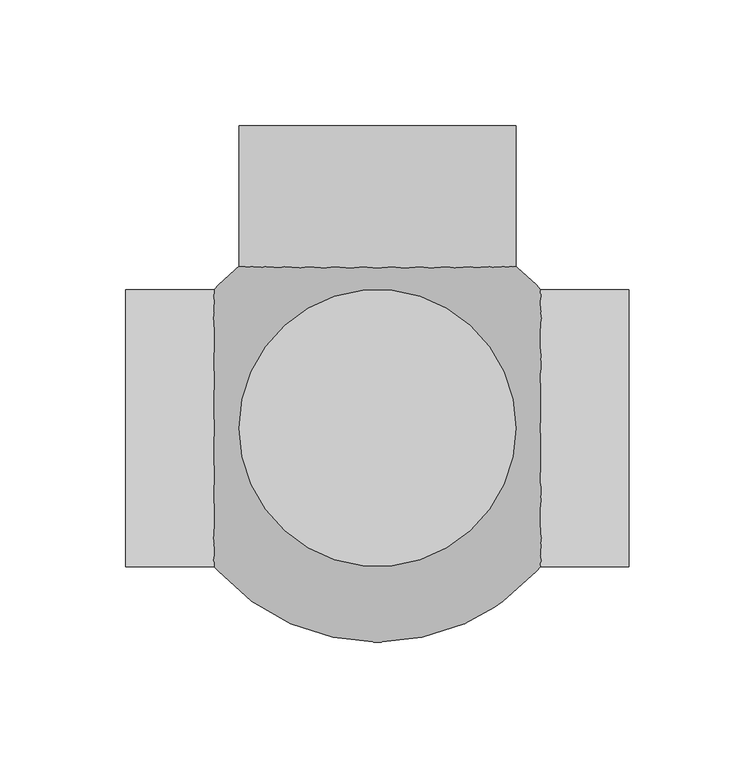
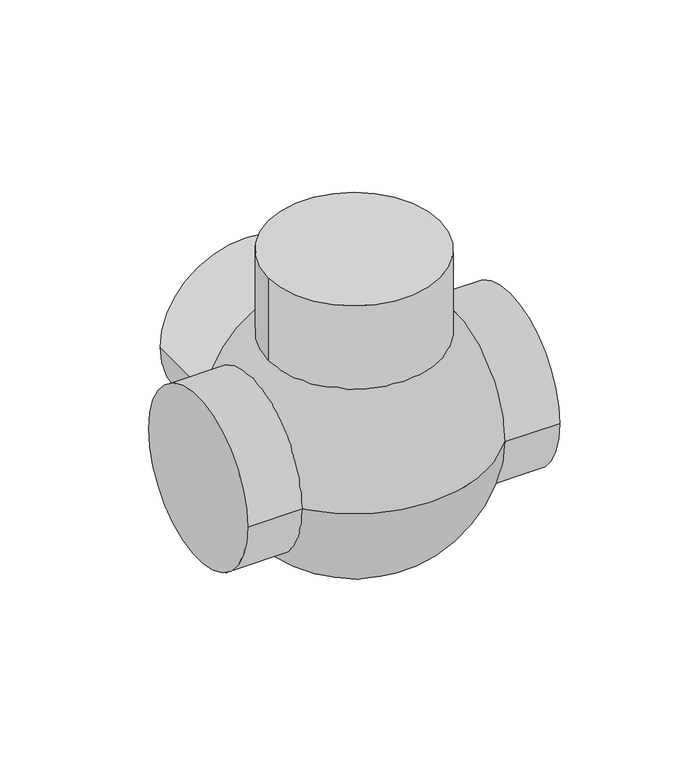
"""IFC4 building model written with IfcOpenShell, lengths in millimetres: pipe fitting geometry, NLRS_52_PIF_UN_PE kogel T-stuk 88,5° dubbel, aansluitingen 90° sprong_geb : DN60-150 / ø63-160."""

from ifc_helpers import new_model, si_unit, point, frame, origin, origin_with_axes, origin_2d, place, context, project, spatial, circle_curve, ellipse_curve, trimmed, segment, composite_curve, outline, extrude, source, transform, mapped, element, save
from ifc_brep_helpers import plane_surface, cylinder_surface, revolved_surface, advanced_brep


def pipe_fitting_7474d90c(model_context):
    return source(origin(), model_context, "Body", "SolidModel", [
        extrude(outline(composite_curve([segment(trimmed(circle_curve(origin_2d(), 55.0), [point((-55.0, 0.0))], [point((55.0, 0.0))], False, "CARTESIAN"), True, "CONTINUOUS"), segment(trimmed(circle_curve(origin_2d(), 55.0), [point((55.0, 0.0))], [point((-55.0, 0.0))], False, "CARTESIAN"), True, "CONTINUOUS")], self_intersect=False)), origin_with_axes(), (0.0, 0.0, 1.0), 120.0),
        extrude(outline(composite_curve([segment(trimmed(circle_curve(origin_2d(), 55.0), [point((0.0, 55.0))], [point((0.0, -55.0))], False, "CARTESIAN"), True, "CONTINUOUS"), segment(trimmed(circle_curve(origin_2d(), 55.0), [point((0.0, -55.0))], [point((0.0, 55.0))], False, "CARTESIAN"), True, "CONTINUOUS")], self_intersect=False)), frame((0.0, 0.0, 0.0), z_axis=(0.0, 1.0, 0.0), x_axis=(0.0, 0.0, 1.0)), (0.0, 0.0, 1.0), 120.0),
        advanced_brep(
        [(0.0, -85.0, 0.0), (-64.807407, -55.0, 0.0), (-64.807407, 55.0, 0.0), (0.0, 85.0, 0.0), (64.807407, 55.0, 0.0), (64.807407, -55.0, 0.0), (100.0, -55.0, 0.0), (100.0, 55.0, 0.0), (-100.0, -55.0, 0.0), (-100.0, 55.0, 0.0)],
        [
            (0, 1, circle_curve(frame((0.0, 0.0, 0.0), z_axis=(0.0, 0.0, -1.0), x_axis=(1.0, 0.0, 0.0)), 85.0)),
            (1, 2, circle_curve(frame((-64.807407, 0.0, 0.0), z_axis=(1.0, 0.0, 0.0), x_axis=(0.0, 1.0, 0.0)), 55.0)),
            (2, 3, circle_curve(frame((0.0, 0.0, 0.0), z_axis=(0.0, 0.0, -1.0), x_axis=(1.0, 0.0, 0.0)), 85.0)),
            (3, 4, circle_curve(frame((0.0, 0.0, 0.0), z_axis=(0.0, 0.0, -1.0), x_axis=(-1.0, 0.0, 0.0)), 85.0)),
            (4, 5, circle_curve(frame((64.807407, 0.0, 0.0), z_axis=(-1.0, 0.0, 0.0), x_axis=(0.0, 1.0, 0.0)), 55.0)),
            (5, 0, circle_curve(frame((0.0, 0.0, 0.0), z_axis=(0.0, 0.0, -1.0), x_axis=(-1.0, 0.0, 0.0)), 85.0)),
            (5, 4, circle_curve(frame((64.807407, 0.0, 0.0), z_axis=(-1.0, 0.0, 0.0), x_axis=(0.0, 1.0, 0.0)), 55.0)),
            (2, 1, circle_curve(frame((-64.807407, 0.0, 0.0), z_axis=(1.0, 0.0, 0.0), x_axis=(0.0, 1.0, 0.0)), 55.0)),
            (6, 7, circle_curve(frame((100.0, 0.0, 0.0), z_axis=(1.0, 0.0, 0.0), x_axis=(0.0, 1.0, 0.0)), 55.0)),
            (7, 6, circle_curve(frame((100.0, 0.0, 0.0), z_axis=(1.0, 0.0, 0.0), x_axis=(0.0, 1.0, 0.0)), 55.0)),
            (8, 9, circle_curve(frame((-100.0, 0.0, 0.0), z_axis=(-1.0, 0.0, 0.0), x_axis=(0.0, 1.0, 0.0)), 55.0)),
            (9, 8, circle_curve(frame((-100.0, 0.0, 0.0), z_axis=(-1.0, 0.0, 0.0), x_axis=(0.0, 1.0, 0.0)), 55.0)),
            (6, 5),
            (4, 7),
            (9, 2),
            (1, 8),
        ],
        [
            revolved_surface(trimmed(ellipse_curve(origin_with_axes(), 85.0, 85.0), [point((0.0, 85.0, 0.0))], [point((0.0, -85.0, 0.0))], True, "CARTESIAN"), (0.0, 125.0, 0.0), (0.0, -1.0, 0.0)),
            plane_surface(frame((100.0, 55.0, 0.0), z_axis=(1.0, 0.0, 0.0), x_axis=(0.0, 0.0, 1.0))),
            plane_surface(frame((-100.0, 55.0, 0.0), z_axis=(-1.0, 0.0, 0.0), x_axis=(0.0, 0.0, -1.0))),
            cylinder_surface(frame((-100.0, 0.0, 0.0), z_axis=(1.0, 0.0, 0.0), x_axis=(0.0, 1.0, 0.0)), 55.0),
        ],
        [
            (0, [[1, 2, 3, 4, 5, 6]]),
            (0, [[-1, -6, 7, -4, -3, 8]]),
            (1, [[9, 10]]),
            (2, [[11, 12]]),
            (3, [[-9, 13, -5, 14]]),
            (3, [[-12, 15, -2, 16]]),
            (3, [[-10, -14, -7, -13]]),
            (3, [[-11, -16, -8, -15]]),
        ],
    ),
    ])


if __name__ == "__main__":
    model = new_model("IFC4")
    model_context = context("Model", 3, world=origin())
    ifc_project = project(units=[si_unit("LENGTHUNIT", "METRE", prefix="MILLI")], contexts=[model_context])
    site = spatial("IfcSite", under=ifc_project)
    building = spatial("IfcBuilding", under=site)
    placement = place(None, origin())
    pipe_fitting_shape = pipe_fitting_7474d90c(model_context)
    element("IfcPipeFitting", 1, ObjectType="NLRS_52_PIF_UN_PE kogel T-stuk 88,5° dubbel, aansluitingen 90° sprong_geb : DN60-150 / ø63-160", at=placement, inside=building, context=model_context, shape_type="MappedRepresentation", body=[
        mapped(pipe_fitting_shape, transform((0.0, 0.0, 0.0), x_axis=(1.0, 0.0, 0.0), y_axis=(0.0, 1.0, 0.0), z_axis=(0.0, 0.0, 1.0))),
    ])
    save(model, "model.ifc")
